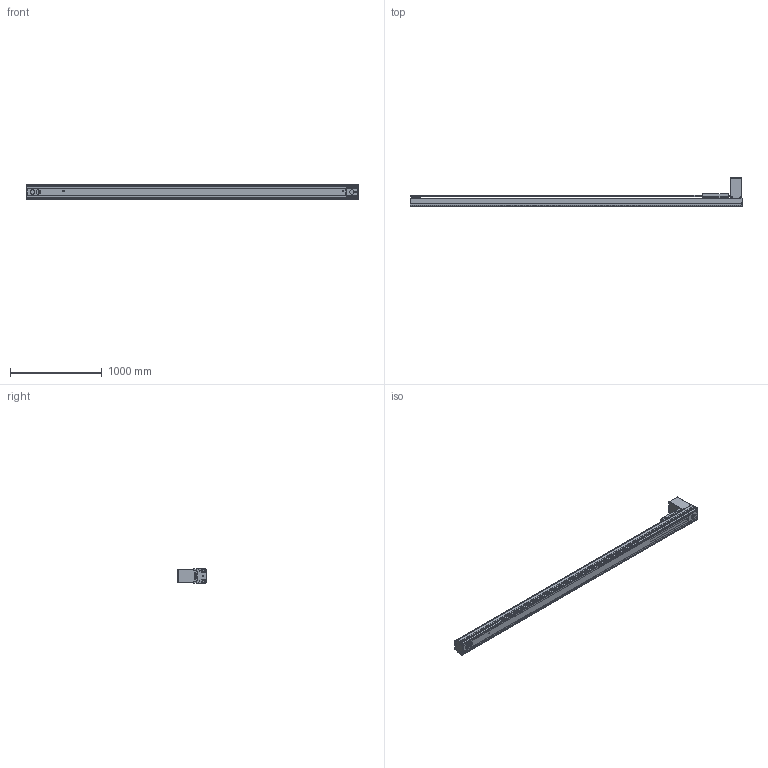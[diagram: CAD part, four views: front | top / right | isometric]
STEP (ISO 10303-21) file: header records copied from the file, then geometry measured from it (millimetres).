
FILE_DESCRIPTION((''),'2;1');
FILE_NAME('BE50G-BT-L19N-W05_IGS_PRT','2017-06-18T',(' '),(''),'PRO/ENGINEER BY PARAMETRIC TECHNOLOGY CORPORATION, 2015030','PRO/ENGINEER BY PARAMETRIC TECHNOLOGY CORPORATION, 2015030','');
FILE_SCHEMA(('CONFIG_CONTROL_DESIGN'));
Products named in the file (1): BE50G-BT-L19N-W05_IGS_PRT
Bounding box: 3620 x 309 x 160 mm (x, y, z)
Volume: 13463232.2 mm3; surface area: 6119367.5 mm2
Topology: 9 solids, 326 shells, 2251 faces, 6679 edges, 4620 vertices
Faces by surface type: cylinder 1205, plane 809, cone 194, sphere 23, torus 20
Entity records: 80205 total; most frequent: CARTESIAN_POINT 19474, DIRECTION 12495, ORIENTED_EDGE 12174, EDGE_CURVE 6605, AXIS2_PLACEMENT_3D 4757, VERTEX_POINT 4620, VECTOR 2981, LINE 2981
